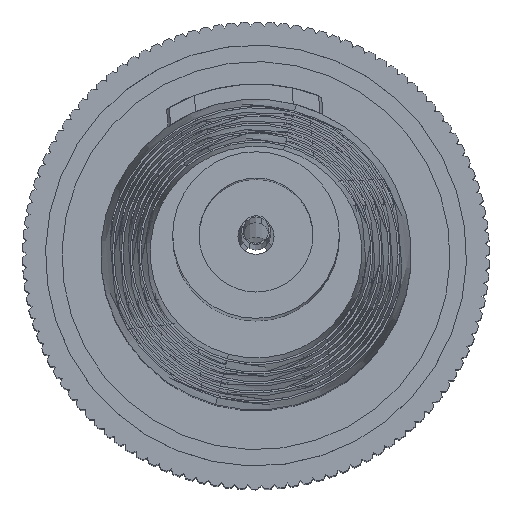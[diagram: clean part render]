
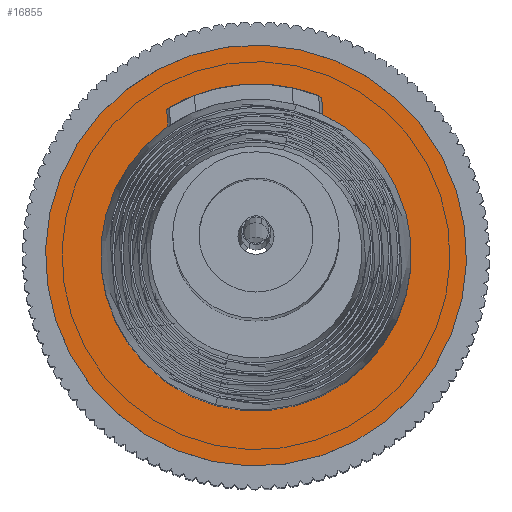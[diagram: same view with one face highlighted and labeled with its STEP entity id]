
A CAD part, top view. The second image highlights one B-rep face of the part: STEP entity #16855.
In plain terms, the highlighted planar face has unit normal (0, 0, 1) as drawn and (-1, 0, 0) by its records, which use the part's own axes.
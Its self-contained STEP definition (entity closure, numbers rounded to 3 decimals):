
#325 = EDGE_LOOP ( 'NONE', ( #21907, #28307 ) ) ;
#721 = CIRCLE ( 'NONE', #18916, 4.064 ) ;
#883 = CARTESIAN_POINT ( 'NONE',  ( -11.887, 0., 0. ) ) ;
#1391 = FACE_OUTER_BOUND ( 'NONE', #8828, .T. ) ;
#2213 = CARTESIAN_POINT ( 'NONE',  ( -11.887, 0., 0. ) ) ;
#2312 = CARTESIAN_POINT ( 'NONE',  ( -11.887, 0., 0. ) ) ;
#2556 = CARTESIAN_POINT ( 'NONE',  ( -11.887, 0., 0. ) ) ;
#2917 = ORIENTED_EDGE ( 'NONE', *, *, #18651, .T. ) ;
#3433 = CARTESIAN_POINT ( 'NONE',  ( -11.887, 0., 2.121 ) ) ;
#3489 = VERTEX_POINT ( 'NONE', #5472 ) ;
#4214 = PLANE ( 'NONE',  #28134 ) ;
#4609 = DIRECTION ( 'NONE',  ( 0., -1., 0. ) ) ;
#5472 = CARTESIAN_POINT ( 'NONE',  ( -11.887, -4.064, 0. ) ) ;
#6565 = DIRECTION ( 'NONE',  ( 0., -1., 0. ) ) ;
#6873 = AXIS2_PLACEMENT_3D ( 'NONE', #883, #11612, #21321 ) ;
#7099 = DIRECTION ( 'NONE',  ( -1., 0., 0. ) ) ;
#7101 = CARTESIAN_POINT ( 'NONE',  ( -11.887, 4.064, 0. ) ) ;
#8828 = EDGE_LOOP ( 'NONE', ( #2917, #26502 ) ) ;
#10101 = CIRCLE ( 'NONE', #18201, 2.121 ) ;
#10403 = VERTEX_POINT ( 'NONE', #7101 ) ;
#10521 = AXIS2_PLACEMENT_3D ( 'NONE', #2556, #27711, #18552 ) ;
#11135 = EDGE_CURVE ( 'NONE', #14667, #24262, #15801, .T. ) ;
#11612 = DIRECTION ( 'NONE',  ( -1., 0., 0. ) ) ;
#13851 = DIRECTION ( 'NONE',  ( 0., 0., 1. ) ) ;
#14667 = VERTEX_POINT ( 'NONE', #3433 ) ;
#15801 = CIRCLE ( 'NONE', #6873, 2.121 ) ;
#16855 = ADVANCED_FACE ( 'NONE', ( #29741, #1391 ), #4214, .T. ) ;
#18201 = AXIS2_PLACEMENT_3D ( 'NONE', #22850, #7099, #13851 ) ;
#18552 = DIRECTION ( 'NONE',  ( 0., -1., 0. ) ) ;
#18651 = EDGE_CURVE ( 'NONE', #3489, #10403, #25514, .T. ) ;
#18738 = EDGE_CURVE ( 'NONE', #24262, #14667, #10101, .T. ) ;
#18916 = AXIS2_PLACEMENT_3D ( 'NONE', #2213, #25428, #4609 ) ;
#20468 = CARTESIAN_POINT ( 'NONE',  ( -11.887, 0., -2.121 ) ) ;
#21321 = DIRECTION ( 'NONE',  ( 0., 0., 1. ) ) ;
#21907 = ORIENTED_EDGE ( 'NONE', *, *, #11135, .F. ) ;
#22528 = DIRECTION ( 'NONE',  ( -1., 0., 0. ) ) ;
#22850 = CARTESIAN_POINT ( 'NONE',  ( -11.887, 0., 0. ) ) ;
#24262 = VERTEX_POINT ( 'NONE', #20468 ) ;
#25428 = DIRECTION ( 'NONE',  ( -1., 0., 0. ) ) ;
#25514 = CIRCLE ( 'NONE', #10521, 4.064 ) ;
#26172 = EDGE_CURVE ( 'NONE', #10403, #3489, #721, .T. ) ;
#26502 = ORIENTED_EDGE ( 'NONE', *, *, #26172, .T. ) ;
#27711 = DIRECTION ( 'NONE',  ( -1., 0., 0. ) ) ;
#28134 = AXIS2_PLACEMENT_3D ( 'NONE', #2312, #22528, #6565 ) ;
#28307 = ORIENTED_EDGE ( 'NONE', *, *, #18738, .F. ) ;
#29741 = FACE_BOUND ( 'NONE', #325, .T. ) ;
